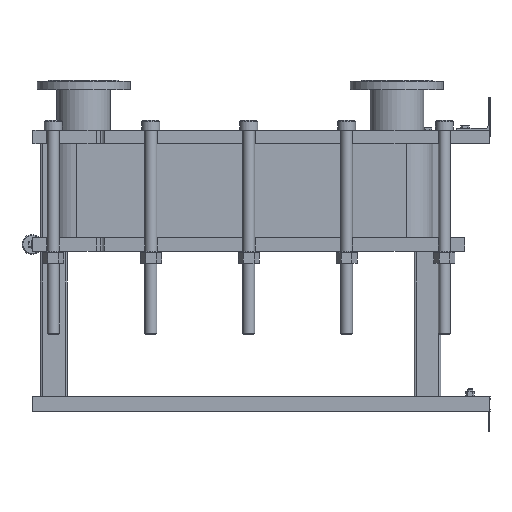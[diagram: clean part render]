
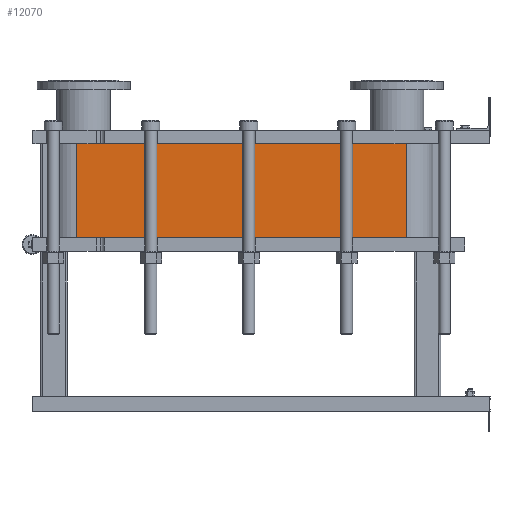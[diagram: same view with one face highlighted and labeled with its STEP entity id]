
A CAD part, left-side view. The second image highlights one B-rep face of the part: STEP entity #12070.
In plain terms, the highlighted planar face has unit normal (-1, 0, 0).
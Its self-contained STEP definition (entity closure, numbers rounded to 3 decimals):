
#1064=LINE('',#21140,#2164);
#1065=LINE('',#21144,#2165);
#1066=LINE('',#21146,#2166);
#1067=LINE('',#21147,#2167);
#2164=VECTOR('',#15790,10.);
#2165=VECTOR('',#15795,10.);
#2166=VECTOR('',#15796,10.);
#2167=VECTOR('',#15797,10.);
#3304=FACE_OUTER_BOUND('',#4091,.T.);
#4091=EDGE_LOOP('',(#9793,#9794,#9795,#9796));
#5677=VERTEX_POINT('',#21137);
#5678=VERTEX_POINT('',#21139);
#5679=VERTEX_POINT('',#21143);
#5680=VERTEX_POINT('',#21145);
#7118=EDGE_CURVE('',#5678,#5677,#1064,.T.);
#7120=EDGE_CURVE('',#5677,#5679,#1065,.T.);
#7121=EDGE_CURVE('',#5680,#5679,#1066,.T.);
#7122=EDGE_CURVE('',#5680,#5678,#1067,.T.);
#9793=ORIENTED_EDGE('',*,*,#7120,.T.);
#9794=ORIENTED_EDGE('',*,*,#7121,.F.);
#9795=ORIENTED_EDGE('',*,*,#7122,.T.);
#9796=ORIENTED_EDGE('',*,*,#7118,.T.);
#11441=PLANE('',#13191);
#12070=ADVANCED_FACE('',(#3304),#11441,.T.);
#13191=AXIS2_PLACEMENT_3D('',#21142,#15793,#15794);
#15790=DIRECTION('',(0.,0.,-1.));
#15793=DIRECTION('center_axis',(-1.,0.,0.));
#15794=DIRECTION('ref_axis',(0.,1.,0.));
#15795=DIRECTION('',(0.,-1.,0.));
#15796=DIRECTION('',(0.,0.,-1.));
#15797=DIRECTION('',(0.,1.,0.));
#21137=CARTESIAN_POINT('',(-248.152,1243.818,-282.9));
#21139=CARTESIAN_POINT('',(-248.152,1243.818,0.));
#21140=CARTESIAN_POINT('',(-248.152,1243.818,0.));
#21142=CARTESIAN_POINT('Origin',(-248.152,251.818,0.));
#21143=CARTESIAN_POINT('',(-248.152,251.818,-282.9));
#21144=CARTESIAN_POINT('',(-248.152,499.818,-282.9));
#21145=CARTESIAN_POINT('',(-248.152,251.818,0.));
#21146=CARTESIAN_POINT('',(-248.152,251.818,0.));
#21147=CARTESIAN_POINT('',(-248.152,251.818,0.));
